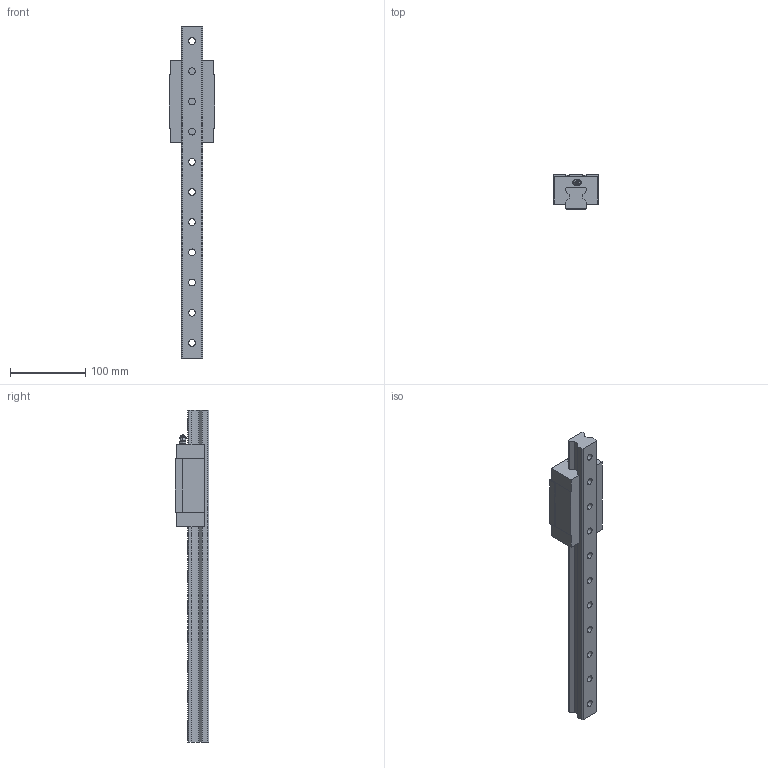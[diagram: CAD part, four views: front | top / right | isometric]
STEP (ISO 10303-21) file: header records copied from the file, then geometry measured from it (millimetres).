
FILE_DESCRIPTION(('STEP AP214'),'1');
FILE_NAME('D:/ModelConvertServices/Model.002/SVC.ACISConvertServices002/output/8d643fb7-5c2d-4021-9d94-e648cd1c1640/1_RGH30CA1R440ZOH.step','2022-07-22T10:24:08',(' '),(' '),'Spatial InterOp 3D',' ',' ');
FILE_SCHEMA(('automotive_design'));
Length unit declared in the file: millimetre
Products named in the file (2): 1; 2
Bounding box: 60 x 45 x 440 mm (x, y, z)
Volume: 455989.9 mm3; surface area: 94858.9 mm2
Topology: 2 solids, 2 shells, 264 faces, 653 edges, 424 vertices
Faces by surface type: plane 136, cylinder 96, cone 30, sphere 2
Entity records: 10042 total; most frequent: CARTESIAN_POINT 1501, DIRECTION 1363, ORIENTED_EDGE 1302, EDGE_CURVE 651, AXIS2_PLACEMENT_3D 494, VERTEX_POINT 424, LINE 375, VECTOR 375
